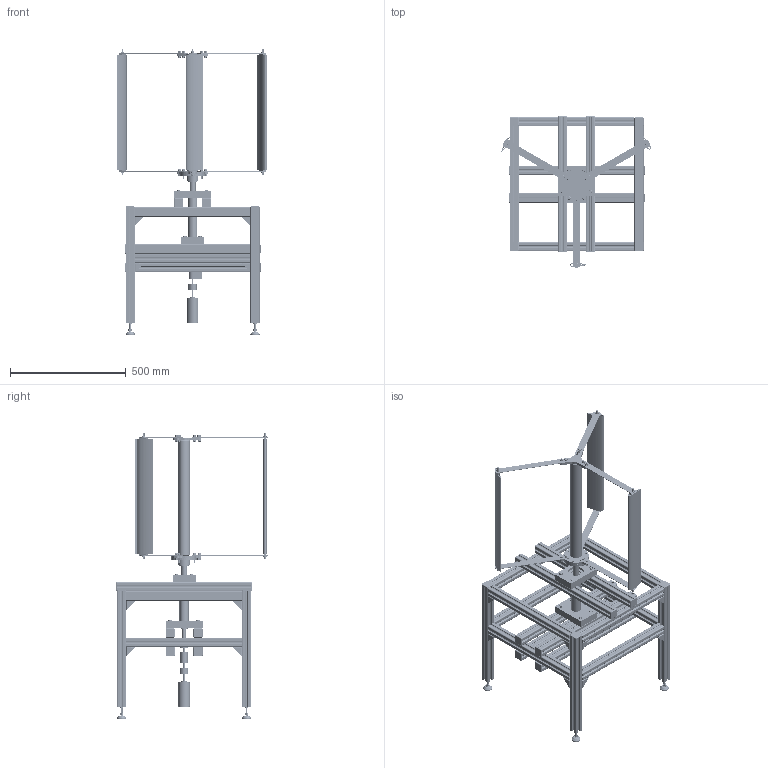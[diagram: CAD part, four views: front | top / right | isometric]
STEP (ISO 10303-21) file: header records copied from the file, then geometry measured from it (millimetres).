
FILE_DESCRIPTION(/* description */ (''),/* implementation_level */ '2;1');
FILE_NAME(/* name */ 'a-500133_A001-a--1_stp.stp',/* time_stamp */ '2018-01-17T11:43:08+01:00',/* author */ (''),/* organization */ (''),/* preprocessor_version */ 'ST-DEVELOPER v16',/* originating_system */ 'SIEMENS PLM Software NX 10.0',/* authorisation */ '');
FILE_SCHEMA (('AUTOMOTIVE_DESIGN { 1 0 10303 214 3 1 1 1 }'));
Length unit declared in the file: millimetre
Products named in the file (49): p-500133_P045-a--1; p-500133_P043-a--1; Stahlstuetze_V2; NACA0024_75; item_40x40_Verbindung; item_0041124_Winkel_8_40x40_Zn_weissaluminium_aehnlich_RAL_9006; Item_Fuss_2; Item_Fuss_3; item_40x40_oben; item_Abdeckkappe; Item_Fuss_1; n-0090_N02567-a--1; n-0090_N03027-a--1; n-0090_N30005-a--1; p-500133_P020-a--1; p-500133_P030-a--1; p-500133_P032-a--1; Rotor_oben; Rotor_Welle; Rotor_Flansch_oben; p-500133_P031-a--1; U-Scheibe M8; Mutter M8; RE50,Graphitbuersten,200W; Drehmomentkopplung-1; Drehmomentsensor; Drehmomentkopplung-2; p-500133_P042-a--1; Rotor_Flansch_unten; Rillenkugellager DIN 625-6006-2Z; p-500133_P040-a--1; Lagerhalterung; a-500133_A013-a--1; Nutprofil_item; n-0090_N15007-a--1; Schraube M8x40_richtig; 9_500133_P000-a--1; p-500133_P041-a--1; Item_Fuss; a_500133_A015-a--1_MODEL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
Assembly tree (164 placements, depth 4):
  a-500133_A001-a--1_stp
    a-500133_A010-a--1_NX-ARRAGMNTArrangement 1  x2
      Lagerhalterung
      p-500133_P040-a--1
      Rillenkugellager DIN 625-6006-2Z
    Item_Fuss  x4
    a-500133_A011-a--1
      Rotor_Flansch_unten
      p-500133_P042-a--1
      Drehmomentkopplung-2
      Drehmomentsensor
      Drehmomentkopplung-1
      RE50,Graphitbuersten,200W
    a-500133_A005-a--1_SOLID
      Wing V6_NACA0012_75NX-ARRAGMNTArrangement 2 NACA0024
        NACA0024_75  x5
        Stahlstuetze_V2
      Mutter M8  x5
      U-Scheibe M8  x9
      p-500133_P031-a--1  x2
      Rotor_Flansch_oben
      Rotor_Welle
      Rotor_oben
      p-500133_P032-a--1
      p-500133_P030-a--1
      p-500133_P020-a--1  x2
      a-500133_A012-a--1_MODEL  x6
        p-500133_P043-a--1
        p-500133_P045-a--1
      n-0090_N30005-a--1  x16
      n-0090_N15007-a--1  x21
      Wing V6_NX-ARRAGMNTArrangement 2 NACA0024  x2
        Stahlstuetze_V2
        NACA0024_75
      n-0090_N03027-a--1  x3
      n-0090_N02567-a--1  x9
    p-500133_P041-a--1
    9_500133_P000-a--1
    a_500133_A013-a--1_MODEL  x4
      Item_Fuss_1
      item_Abdeckkappe
      item_40x40_oben
      Item_Fuss_3
      Item_Fuss_2
    a_500133_A014-a--1_MODEL  x8
      item_40x40_oben
      item_0041124_Winkel_8_40x40_Zn_weissaluminium_aehnlich_RAL_9006
    a_500133_A015-a--1_MODEL  x6
      item_40x40_Verbindung
      item_Abdeckkappe
    Schraube M8x40_richtig  x8
    n-0090_N15007-a--1  x8
    Nutprofil_item  x4
    a-500133_A013-a--1
Bounding box: 646.61 x 656.5 x 1233 mm (x, y, z)
Volume: 8846483.6 mm3; surface area: 6958132 mm2
Topology: 177 solids, 177 shells, 8355 faces, 23091 edges, 15183 vertices
Faces by surface type: cylinder 3930, plane 3899, cone 426, bspline 68, torus 28, sphere 4
Full cylindrical faces by diameter (mm): 3.3 x4, 6.4 x16, 6.647 x4, 6.8 x51, 8 x67, 8.4 x29, 8.5 x50, 9 x29, 10 x27, 11 x4, 12 x5, 13 x12, 16 x30, 25 x1, 26 x4, 30 x4, 35.8 x2, 36 x3, 39 x4, 40 x3, 45 x2, 49 x1, 49.6 x1, 50 x3, 55 x4, 70 x2, 80 x4, 110 x1
Entity records: 41998 total; most frequent: CARTESIAN_POINT 6282, DIRECTION 6259, ORIENTED_EDGE 5440, EDGE_CURVE 2720, AXIS2_PLACEMENT_3D 2389, VERTEX_POINT 1868, LINE 1481, VECTOR 1481
